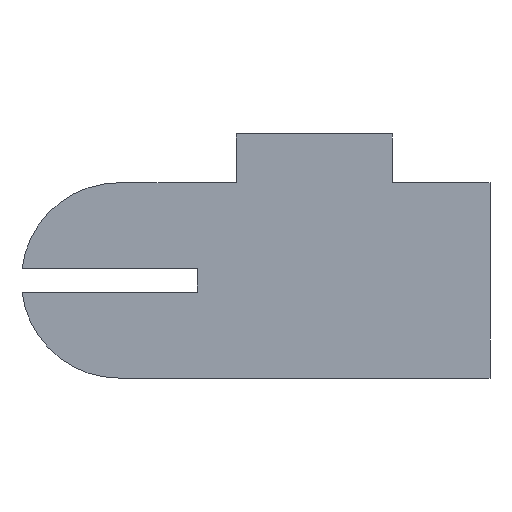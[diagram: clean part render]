
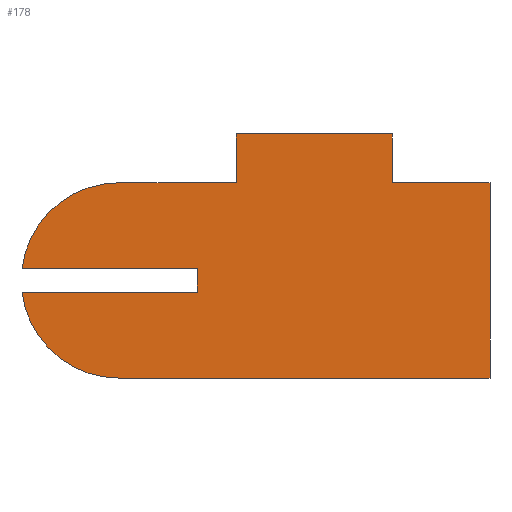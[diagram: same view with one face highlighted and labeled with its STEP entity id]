
A CAD part, front view. The second image highlights one B-rep face of the part: STEP entity #178.
In plain terms, the highlighted planar face has unit normal (0, -1, 0).
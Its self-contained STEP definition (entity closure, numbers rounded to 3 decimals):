
#32 = VERTEX_POINT('',#33);
#33 = CARTESIAN_POINT('',(-38.,-6.,-3.));
#39 = EDGE_CURVE('',#32,#40,#42,.T.);
#40 = VERTEX_POINT('',#41);
#41 = CARTESIAN_POINT('',(-26.,-6.,-3.));
#42 = LINE('',#43,#44);
#43 = CARTESIAN_POINT('',(-38.,-6.,-3.));
#44 = VECTOR('',#45,1.);
#45 = DIRECTION('',(1.,0.,-0.));
#158 = EDGE_CURVE('',#40,#159,#161,.T.);
#159 = VERTEX_POINT('',#160);
#160 = CARTESIAN_POINT('',(-26.,-6.,2.));
#161 = LINE('',#162,#163);
#162 = CARTESIAN_POINT('',(-26.,-6.,-3.));
#163 = VECTOR('',#164,1.);
#164 = DIRECTION('',(0.,0.,1.));
#178 = ADVANCED_FACE('',(#179),#263,.T.);
#179 = FACE_BOUND('',#180,.T.);
#180 = EDGE_LOOP('',(#181,#192,#200,#208,#216,#224,#230,#231,#232,#241,
    #249,#257));
#181 = ORIENTED_EDGE('',*,*,#182,.F.);
#182 = EDGE_CURVE('',#183,#185,#187,.T.);
#183 = VERTEX_POINT('',#184);
#184 = CARTESIAN_POINT('',(-38.,-6.,-23.));
#185 = VERTEX_POINT('',#186);
#186 = CARTESIAN_POINT('',(-47.928,-6.,-14.2));
#187 = CIRCLE('',#188,10.);
#188 = AXIS2_PLACEMENT_3D('',#189,#190,#191);
#189 = CARTESIAN_POINT('',(-38.,-6.,-13.));
#190 = DIRECTION('',(0.,1.,0.));
#191 = DIRECTION('',(0.,-0.,1.));
#192 = ORIENTED_EDGE('',*,*,#193,.T.);
#193 = EDGE_CURVE('',#183,#194,#196,.T.);
#194 = VERTEX_POINT('',#195);
#195 = CARTESIAN_POINT('',(0.,-6.,-23.));
#196 = LINE('',#197,#198);
#197 = CARTESIAN_POINT('',(-38.,-6.,-23.));
#198 = VECTOR('',#199,1.);
#199 = DIRECTION('',(1.,0.,-0.));
#200 = ORIENTED_EDGE('',*,*,#201,.T.);
#201 = EDGE_CURVE('',#194,#202,#204,.T.);
#202 = VERTEX_POINT('',#203);
#203 = CARTESIAN_POINT('',(0.,-6.,-3.));
#204 = LINE('',#205,#206);
#205 = CARTESIAN_POINT('',(0.,-6.,-23.));
#206 = VECTOR('',#207,1.);
#207 = DIRECTION('',(0.,0.,1.));
#208 = ORIENTED_EDGE('',*,*,#209,.F.);
#209 = EDGE_CURVE('',#210,#202,#212,.T.);
#210 = VERTEX_POINT('',#211);
#211 = CARTESIAN_POINT('',(-10.,-6.,-3.));
#212 = LINE('',#213,#214);
#213 = CARTESIAN_POINT('',(-38.,-6.,-3.));
#214 = VECTOR('',#215,1.);
#215 = DIRECTION('',(1.,0.,-0.));
#216 = ORIENTED_EDGE('',*,*,#217,.T.);
#217 = EDGE_CURVE('',#210,#218,#220,.T.);
#218 = VERTEX_POINT('',#219);
#219 = CARTESIAN_POINT('',(-10.,-6.,2.));
#220 = LINE('',#221,#222);
#221 = CARTESIAN_POINT('',(-10.,-6.,-3.));
#222 = VECTOR('',#223,1.);
#223 = DIRECTION('',(0.,0.,1.));
#224 = ORIENTED_EDGE('',*,*,#225,.F.);
#225 = EDGE_CURVE('',#159,#218,#226,.T.);
#226 = LINE('',#227,#228);
#227 = CARTESIAN_POINT('',(-26.,-6.,2.));
#228 = VECTOR('',#229,1.);
#229 = DIRECTION('',(1.,0.,-0.));
#230 = ORIENTED_EDGE('',*,*,#158,.F.);
#231 = ORIENTED_EDGE('',*,*,#39,.F.);
#232 = ORIENTED_EDGE('',*,*,#233,.F.);
#233 = EDGE_CURVE('',#234,#32,#236,.T.);
#234 = VERTEX_POINT('',#235);
#235 = CARTESIAN_POINT('',(-47.928,-6.,-11.8));
#236 = CIRCLE('',#237,10.);
#237 = AXIS2_PLACEMENT_3D('',#238,#239,#240);
#238 = CARTESIAN_POINT('',(-38.,-6.,-13.));
#239 = DIRECTION('',(0.,1.,0.));
#240 = DIRECTION('',(0.,-0.,1.));
#241 = ORIENTED_EDGE('',*,*,#242,.F.);
#242 = EDGE_CURVE('',#243,#234,#245,.T.);
#243 = VERTEX_POINT('',#244);
#244 = CARTESIAN_POINT('',(-30.,-6.,-11.8));
#245 = LINE('',#246,#247);
#246 = CARTESIAN_POINT('',(-34.799,-6.,-11.8));
#247 = VECTOR('',#248,1.);
#248 = DIRECTION('',(-1.,0.,0.));
#249 = ORIENTED_EDGE('',*,*,#250,.F.);
#250 = EDGE_CURVE('',#251,#243,#253,.T.);
#251 = VERTEX_POINT('',#252);
#252 = CARTESIAN_POINT('',(-30.,-6.,-14.2));
#253 = LINE('',#254,#255);
#254 = CARTESIAN_POINT('',(-30.,-6.,-12.846));
#255 = VECTOR('',#256,1.);
#256 = DIRECTION('',(0.,-0.,1.));
#257 = ORIENTED_EDGE('',*,*,#258,.T.);
#258 = EDGE_CURVE('',#251,#185,#259,.T.);
#259 = LINE('',#260,#261);
#260 = CARTESIAN_POINT('',(-34.799,-6.,-14.2));
#261 = VECTOR('',#262,1.);
#262 = DIRECTION('',(-1.,0.,0.));
#263 = PLANE('',#264);
#264 = AXIS2_PLACEMENT_3D('',#265,#266,#267);
#265 = CARTESIAN_POINT('',(-21.597,-6.,-11.493));
#266 = DIRECTION('',(-0.,-1.,-0.));
#267 = DIRECTION('',(0.,0.,-1.));
